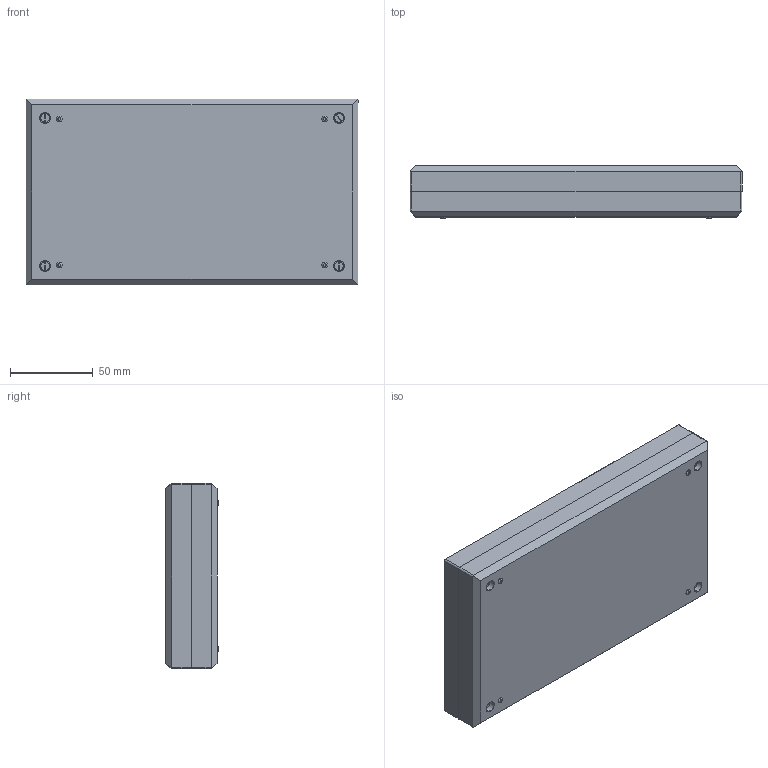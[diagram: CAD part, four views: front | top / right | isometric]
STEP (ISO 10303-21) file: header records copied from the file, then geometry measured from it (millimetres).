
FILE_DESCRIPTION (( 'STEP AP214' ), '1' );
FILE_NAME ('Conjunt PP60A.STEP', '2016-10-09T14:13:25', ( 'aaa' ), ( '' ), 'SwSTEP 2.0', 'SolidWorks 2013', '' );
FILE_SCHEMA (( 'AUTOMOTIVE_DESIGN' ));
Length unit declared in the file: millimetre
Products named in the file (6): Cargol 2,1x6,5 PP60A; Cargol M 3x8 PP60A; Tapa PP60A; Cuerpo PP60A; Conjunt PP60A; Fijacion tornillo PP60A
Assembly tree (14 placements, depth 2):
  Conjunt PP60A
    Cuerpo PP60A
    Tapa PP60A
    Cargol M 3x8 PP60A  x4
    Cargol 2,1x6,5 PP60A  x4
    Fijacion tornillo PP60A  x4
Bounding box: 200 x 31.65 x 112 mm (x, y, z)
Volume: 227539.7 mm3; surface area: 133325.1 mm2
Topology: 14 solids, 14 shells, 1246 faces, 2718 edges, 1528 vertices
Faces by surface type: cone 784, plane 264, cylinder 182, torus 16
Entity records: 15474 total; most frequent: DIRECTION 2826, CARTESIAN_POINT 2627, ORIENTED_EDGE 2480, EDGE_CURVE 1240, AXIS2_PLACEMENT_3D 1064, VERTEX_POINT 745, VECTOR 698, LINE 698
